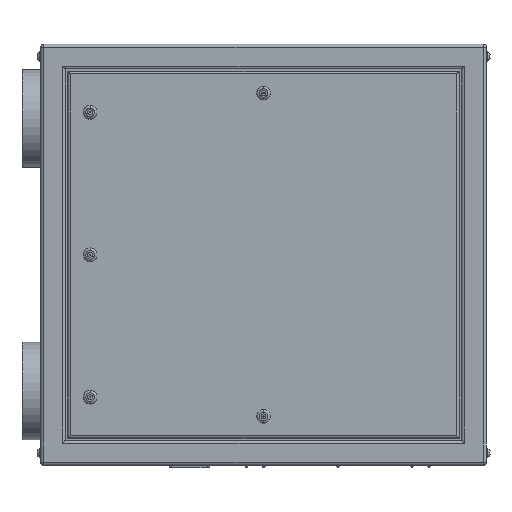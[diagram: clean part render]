
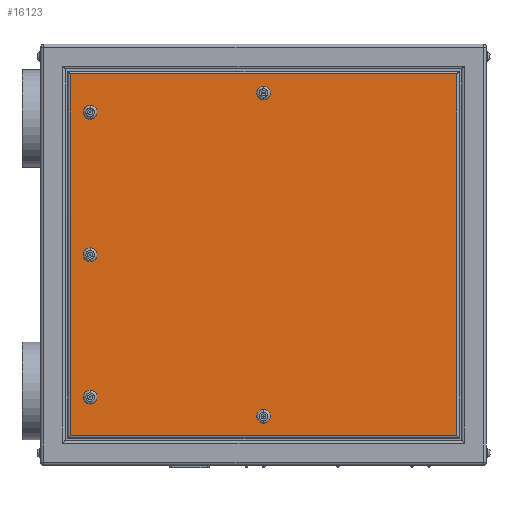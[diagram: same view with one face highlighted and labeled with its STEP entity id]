
A CAD part, left-side view. The second image highlights one B-rep face of the part: STEP entity #16123.
In plain terms, the highlighted planar face has unit normal (-1, 0, 0).
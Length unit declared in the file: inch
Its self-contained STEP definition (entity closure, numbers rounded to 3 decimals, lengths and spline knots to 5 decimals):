
#260 = LINE ( 'NONE', #5658, #16244 ) ;
#432 = FACE_BOUND ( 'NONE', #7881, .T. ) ;
#444 = CIRCLE ( 'NONE', #2428, 0.55 ) ;
#453 = CARTESIAN_POINT ( 'NONE',  ( -10., 14., -0.55 ) ) ;
#523 = ORIENTED_EDGE ( 'NONE', *, *, #1051, .T. ) ;
#540 = VERTEX_POINT ( 'NONE', #6398 ) ;
#576 = DIRECTION ( 'NONE',  ( 0., 0., -1. ) ) ;
#598 = PLANE ( 'NONE',  #3571 ) ;
#684 = LINE ( 'NONE', #7602, #11795 ) ;
#795 = AXIS2_PLACEMENT_3D ( 'NONE', #17000, #10197, #15604 ) ;
#834 = DIRECTION ( 'NONE',  ( 1., 0., 0. ) ) ;
#874 = EDGE_CURVE ( 'NONE', #14583, #8964, #11556, .T. ) ;
#922 = VERTEX_POINT ( 'NONE', #3678 ) ;
#993 = CARTESIAN_POINT ( 'NONE',  ( -10., 14., 10.95 ) ) ;
#1016 = DIRECTION ( 'NONE',  ( 0., 0., -1. ) ) ;
#1028 = ORIENTED_EDGE ( 'NONE', *, *, #14926, .F. ) ;
#1051 = EDGE_CURVE ( 'NONE', #3103, #922, #13028, .T. ) ;
#1376 = CIRCLE ( 'NONE', #17194, 0.55 ) ;
#1639 = CARTESIAN_POINT ( 'NONE',  ( -10., 14., 12.05 ) ) ;
#1905 = AXIS2_PLACEMENT_3D ( 'NONE', #14895, #5675, #10739 ) ;
#1907 = CARTESIAN_POINT ( 'NONE',  ( -10., 14., 0. ) ) ;
#2217 = ORIENTED_EDGE ( 'NONE', *, *, #13011, .T. ) ;
#2294 = CARTESIAN_POINT ( 'NONE',  ( -10., 0., 13.05 ) ) ;
#2380 = VERTEX_POINT ( 'NONE', #453 ) ;
#2428 = AXIS2_PLACEMENT_3D ( 'NONE', #1907, #8704, #5792 ) ;
#2807 = CARTESIAN_POINT ( 'NONE',  ( -10., 0., 12.5 ) ) ;
#3015 = ORIENTED_EDGE ( 'NONE', *, *, #16751, .T. ) ;
#3083 = EDGE_LOOP ( 'NONE', ( #9336, #3015 ) ) ;
#3103 = VERTEX_POINT ( 'NONE', #10305 ) ;
#3284 = ORIENTED_EDGE ( 'NONE', *, *, #3629, .F. ) ;
#3415 = CARTESIAN_POINT ( 'NONE',  ( -10., 18., 14.6 ) ) ;
#3463 = LINE ( 'NONE', #16763, #9329 ) ;
#3571 = AXIS2_PLACEMENT_3D ( 'NONE', #11087, #4342, #15139 ) ;
#3629 = EDGE_CURVE ( 'NONE', #12956, #10176, #14392, .T. ) ;
#3678 = CARTESIAN_POINT ( 'NONE',  ( -10., 15.6, 14.6 ) ) ;
#3718 = AXIS2_PLACEMENT_3D ( 'NONE', #11617, #10107, #8673 ) ;
#4224 = ORIENTED_EDGE ( 'NONE', *, *, #874, .T. ) ;
#4342 = DIRECTION ( 'NONE',  ( 1., 0., 0. ) ) ;
#4401 = DIRECTION ( 'NONE',  ( 1., 0., 0. ) ) ;
#4565 = EDGE_LOOP ( 'NONE', ( #5573, #3284 ) ) ;
#5015 = CIRCLE ( 'NONE', #1905, 0.55 ) ;
#5230 = ORIENTED_EDGE ( 'NONE', *, *, #15391, .T. ) ;
#5371 = ORIENTED_EDGE ( 'NONE', *, *, #9484, .T. ) ;
#5573 = ORIENTED_EDGE ( 'NONE', *, *, #12852, .F. ) ;
#5658 = CARTESIAN_POINT ( 'NONE',  ( -10., -15.6, -17. ) ) ;
#5675 = DIRECTION ( 'NONE',  ( -1., 0., 0. ) ) ;
#5792 = DIRECTION ( 'NONE',  ( 0., 0., -1. ) ) ;
#5829 = FACE_OUTER_BOUND ( 'NONE', #17183, .T. ) ;
#5891 = CARTESIAN_POINT ( 'NONE',  ( -10., 14., -11.5 ) ) ;
#5997 = VERTEX_POINT ( 'NONE', #10275 ) ;
#6088 = DIRECTION ( 'NONE',  ( 0., -1., 0. ) ) ;
#6366 = DIRECTION ( 'NONE',  ( -1., 0., 0. ) ) ;
#6398 = CARTESIAN_POINT ( 'NONE',  ( -10., 15.6, -14.6 ) ) ;
#6410 = CARTESIAN_POINT ( 'NONE',  ( -10., 14., 0. ) ) ;
#6594 = EDGE_LOOP ( 'NONE', ( #6884, #5371 ) ) ;
#6652 = VERTEX_POINT ( 'NONE', #1639 ) ;
#6702 = DIRECTION ( 'NONE',  ( 1., 0., 0. ) ) ;
#6832 = VERTEX_POINT ( 'NONE', #993 ) ;
#6884 = ORIENTED_EDGE ( 'NONE', *, *, #9563, .T. ) ;
#7548 = DIRECTION ( 'NONE',  ( 0., 0., -1. ) ) ;
#7595 = AXIS2_PLACEMENT_3D ( 'NONE', #2294, #6366, #13128 ) ;
#7598 = EDGE_CURVE ( 'NONE', #13194, #11241, #5015, .T. ) ;
#7602 = CARTESIAN_POINT ( 'NONE',  ( -10., 18., -14.6 ) ) ;
#7668 = ORIENTED_EDGE ( 'NONE', *, *, #7598, .F. ) ;
#7881 = EDGE_LOOP ( 'NONE', ( #4224, #2217 ) ) ;
#8020 = CARTESIAN_POINT ( 'NONE',  ( -10., 0., 13.6 ) ) ;
#8150 = VECTOR ( 'NONE', #13115, 39.37008 ) ;
#8539 = CIRCLE ( 'NONE', #3718, 0.55 ) ;
#8673 = DIRECTION ( 'NONE',  ( 0., 0., -1. ) ) ;
#8704 = DIRECTION ( 'NONE',  ( 1., 0., 0. ) ) ;
#8964 = VERTEX_POINT ( 'NONE', #11608 ) ;
#9058 = CARTESIAN_POINT ( 'NONE',  ( -10., 14., 11.5 ) ) ;
#9329 = VECTOR ( 'NONE', #7548, 39.37008 ) ;
#9336 = ORIENTED_EDGE ( 'NONE', *, *, #13995, .T. ) ;
#9348 = ORIENTED_EDGE ( 'NONE', *, *, #16171, .T. ) ;
#9484 = EDGE_CURVE ( 'NONE', #13737, #2380, #444, .T. ) ;
#9563 = EDGE_CURVE ( 'NONE', #2380, #13737, #15739, .T. ) ;
#9972 = AXIS2_PLACEMENT_3D ( 'NONE', #5891, #4401, #576 ) ;
#10107 = DIRECTION ( 'NONE',  ( -1., 0., 0. ) ) ;
#10176 = VERTEX_POINT ( 'NONE', #8020 ) ;
#10197 = DIRECTION ( 'NONE',  ( 1., 0., 0. ) ) ;
#10275 = CARTESIAN_POINT ( 'NONE',  ( -10., -15.6, -14.6 ) ) ;
#10305 = CARTESIAN_POINT ( 'NONE',  ( -10., -15.6, 14.6 ) ) ;
#10347 = EDGE_LOOP ( 'NONE', ( #7668, #1028 ) ) ;
#10356 = AXIS2_PLACEMENT_3D ( 'NONE', #6410, #834, #1016 ) ;
#10664 = CARTESIAN_POINT ( 'NONE',  ( -10., 0., -13.6 ) ) ;
#10739 = DIRECTION ( 'NONE',  ( 0., 0., -1. ) ) ;
#11083 = DIRECTION ( 'NONE',  ( 0., 0., 1. ) ) ;
#11087 = CARTESIAN_POINT ( 'NONE',  ( -10., 18., -17. ) ) ;
#11142 = EDGE_CURVE ( 'NONE', #922, #540, #3463, .T. ) ;
#11241 = VERTEX_POINT ( 'NONE', #10664 ) ;
#11556 = CIRCLE ( 'NONE', #795, 0.55 ) ;
#11608 = CARTESIAN_POINT ( 'NONE',  ( -10., 14., -10.95 ) ) ;
#11617 = CARTESIAN_POINT ( 'NONE',  ( -10., 0., 13.05 ) ) ;
#11795 = VECTOR ( 'NONE', #6088, 39.37008 ) ;
#12019 = CARTESIAN_POINT ( 'NONE',  ( -10., 14., -12.05 ) ) ;
#12117 = DIRECTION ( 'NONE',  ( 0., 0., -1. ) ) ;
#12363 = DIRECTION ( 'NONE',  ( -1., 0., 0. ) ) ;
#12852 = EDGE_CURVE ( 'NONE', #10176, #12956, #8539, .T. ) ;
#12956 = VERTEX_POINT ( 'NONE', #2807 ) ;
#13011 = EDGE_CURVE ( 'NONE', #8964, #14583, #15355, .T. ) ;
#13028 = LINE ( 'NONE', #3415, #8150 ) ;
#13115 = DIRECTION ( 'NONE',  ( 0., 1., 0. ) ) ;
#13128 = DIRECTION ( 'NONE',  ( 0., 0., -1. ) ) ;
#13194 = VERTEX_POINT ( 'NONE', #14924 ) ;
#13403 = AXIS2_PLACEMENT_3D ( 'NONE', #13701, #12363, #15006 ) ;
#13701 = CARTESIAN_POINT ( 'NONE',  ( -10., 0., -13.05 ) ) ;
#13737 = VERTEX_POINT ( 'NONE', #14503 ) ;
#13995 = EDGE_CURVE ( 'NONE', #6832, #6652, #14174, .T. ) ;
#14006 = FACE_BOUND ( 'NONE', #10347, .T. ) ;
#14174 = CIRCLE ( 'NONE', #15315, 0.55 ) ;
#14392 = CIRCLE ( 'NONE', #7595, 0.55 ) ;
#14503 = CARTESIAN_POINT ( 'NONE',  ( -10., 14., 0.55 ) ) ;
#14536 = DIRECTION ( 'NONE',  ( 1., 0., 0. ) ) ;
#14583 = VERTEX_POINT ( 'NONE', #12019 ) ;
#14895 = CARTESIAN_POINT ( 'NONE',  ( -10., 0., -13.05 ) ) ;
#14924 = CARTESIAN_POINT ( 'NONE',  ( -10., 0., -12.5 ) ) ;
#14926 = EDGE_CURVE ( 'NONE', #11241, #13194, #16772, .T. ) ;
#15006 = DIRECTION ( 'NONE',  ( 0., 0., -1. ) ) ;
#15139 = DIRECTION ( 'NONE',  ( 0., 0., -1. ) ) ;
#15232 = FACE_BOUND ( 'NONE', #3083, .T. ) ;
#15315 = AXIS2_PLACEMENT_3D ( 'NONE', #17407, #6702, #12117 ) ;
#15355 = CIRCLE ( 'NONE', #9972, 0.55 ) ;
#15391 = EDGE_CURVE ( 'NONE', #5997, #3103, #260, .T. ) ;
#15407 = FACE_BOUND ( 'NONE', #4565, .T. ) ;
#15604 = DIRECTION ( 'NONE',  ( 0., 0., -1. ) ) ;
#15739 = CIRCLE ( 'NONE', #10356, 0.55 ) ;
#15806 = ORIENTED_EDGE ( 'NONE', *, *, #11142, .T. ) ;
#15898 = DIRECTION ( 'NONE',  ( 0., 0., -1. ) ) ;
#16123 = ADVANCED_FACE ( 'NONE', ( #14006, #15407, #432, #16806, #15232, #5829 ), #598, .F. ) ;
#16171 = EDGE_CURVE ( 'NONE', #540, #5997, #684, .T. ) ;
#16244 = VECTOR ( 'NONE', #11083, 39.37008 ) ;
#16751 = EDGE_CURVE ( 'NONE', #6652, #6832, #1376, .T. ) ;
#16763 = CARTESIAN_POINT ( 'NONE',  ( -10., 15.6, -17. ) ) ;
#16772 = CIRCLE ( 'NONE', #13403, 0.55 ) ;
#16806 = FACE_BOUND ( 'NONE', #6594, .T. ) ;
#17000 = CARTESIAN_POINT ( 'NONE',  ( -10., 14., -11.5 ) ) ;
#17183 = EDGE_LOOP ( 'NONE', ( #9348, #5230, #523, #15806 ) ) ;
#17194 = AXIS2_PLACEMENT_3D ( 'NONE', #9058, #14536, #15898 ) ;
#17407 = CARTESIAN_POINT ( 'NONE',  ( -10., 14., 11.5 ) ) ;
